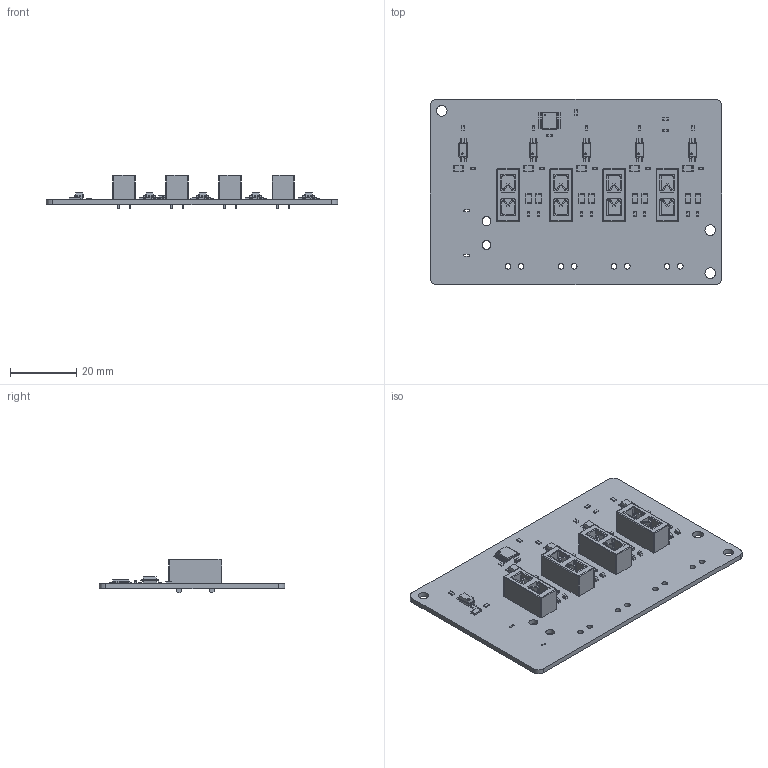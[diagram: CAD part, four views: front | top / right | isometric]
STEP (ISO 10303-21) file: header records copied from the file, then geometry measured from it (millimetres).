
FILE_DESCRIPTION(('KiCad electronic assembly'),'2;1');
FILE_NAME('AP_Dist4.step','2026-10-06T22:23:39',('Pcbnew'),('Kicad'), 'Open CASCADE STEP processor 7.6','KiCad to STEP converter','Unknown' );
FILE_SCHEMA(('AUTOMOTIVE_DESIGN { 1 0 10303 214 1 1 1 1 }'));
Length unit declared in the file: millimetre
Products named in the file (9): AP_Dist4 1; R_0603_1608Metric; SOP-4_4.4x2.6mm_P1.27mm; R_1206_3216Metric; C_0603_1608Metric; LED_0603_1608Metric; Fuseholder_Blade_Mini_Keystone_3568; TSSOP-16_4.4x5mm_P0.65mm; AP_Dist4_PCB
Assembly tree (46 placements, depth 2):
  AP_Dist4 1
    R_0603_1608Metric  x13
    SOP-4_4.4x2.6mm_P1.27mm  x5
    R_1206_3216Metric  x13
    C_0603_1608Metric
    LED_0603_1608Metric  x8
    Fuseholder_Blade_Mini_Keystone_3568  x4
    TSSOP-16_4.4x5mm_P0.65mm
    AP_Dist4_PCB
Bounding box: 88 x 56 x 10.16 mm (x, y, z)
Volume: 10183.5 mm3; surface area: 14361.9 mm2
Topology: 46 solids, 46 shells, 2419 faces, 6513 edges, 4202 vertices
Faces by surface type: plane 1636, cylinder 599, bspline 168, sphere 16
Full cylindrical faces by diameter (mm): 0.5 x6, 1.7 x8, 1.78 x16, 2.7 x2, 3.2 x3
Entity records: 21251 total; most frequent: CARTESIAN_POINT 3892, ORIENTED_EDGE 3608, DIRECTION 3464, EDGE_CURVE 1802, LINE 1356, VECTOR 1356, VERTEX_POINT 1162, AXIS2_PLACEMENT_3D 1054
